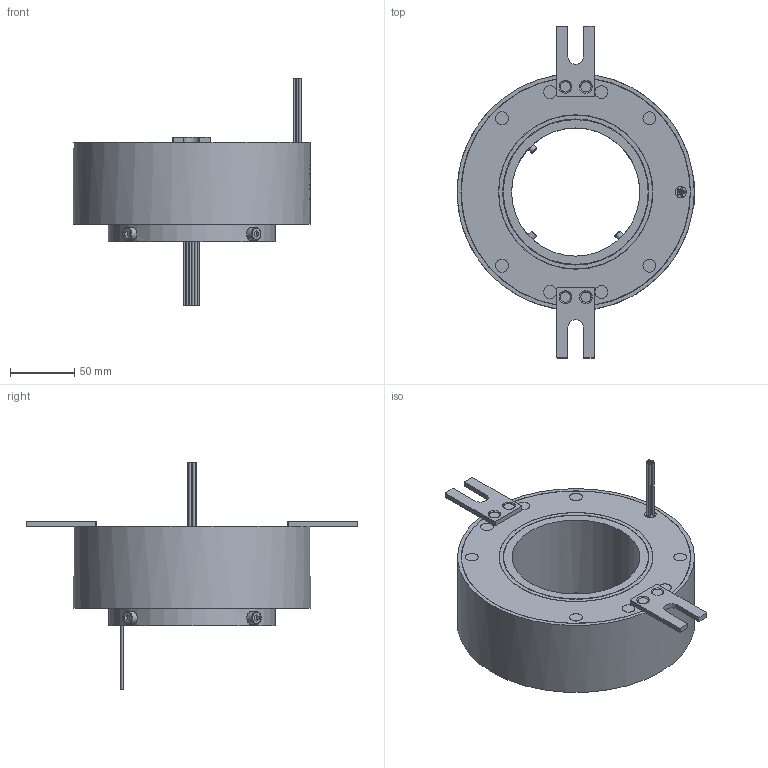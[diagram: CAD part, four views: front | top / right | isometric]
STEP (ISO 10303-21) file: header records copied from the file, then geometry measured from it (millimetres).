
FILE_DESCRIPTION(/* description */ (''),/* implementation_level */ '2;1');
FILE_NAME(/* name */ 'HD100185-0610-3D模型.stp',/* time_stamp */ '2025-09-04T17:27:52+08:00',/* author */ (''),/* organization */ (''),/* preprocessor_version */ 'ST-DEVELOPER v16.7',/* originating_system */ 'SIEMENS PLM Software NX 12.0',/* authorisation */ '');
FILE_SCHEMA (('AUTOMOTIVE_DESIGN { 1 0 10303 214 3 1 1 1 }'));
Length unit declared in the file: millimetre
Products named in the file (1): Admi8ABC6E17216i
Bounding box: 185.48 x 259 x 177.1 mm (x, y, z)
Volume: 1304494.4 mm3; surface area: 118962.8 mm2
Topology: 1 solids, 5 shells, 782 faces, 2058 edges, 1366 vertices
Faces by surface type: extrusion 340, plane 324, cylinder 72, bspline 30, cone 12, torus 4
Full cylindrical faces by diameter (mm): 1.8 x12, 4 x4, 4.5 x4, 5 x1, 6 x7, 8 x4, 9 x1, 10 x12, 100 x1, 114 x1, 120 x1, 120.5 x1, 130 x1, 178.8 x2, 179 x2, 185 x1
Entity records: 30121 total; most frequent: CARTESIAN_POINT 13749, ORIENTED_EDGE 3924, DIRECTION 2018, EDGE_CURVE 1962, B_SPLINE_CURVE_WITH_KNOTS 1732, VERTEX_POINT 1341, EDGE_LOOP 947, ADVANCED_FACE 782
